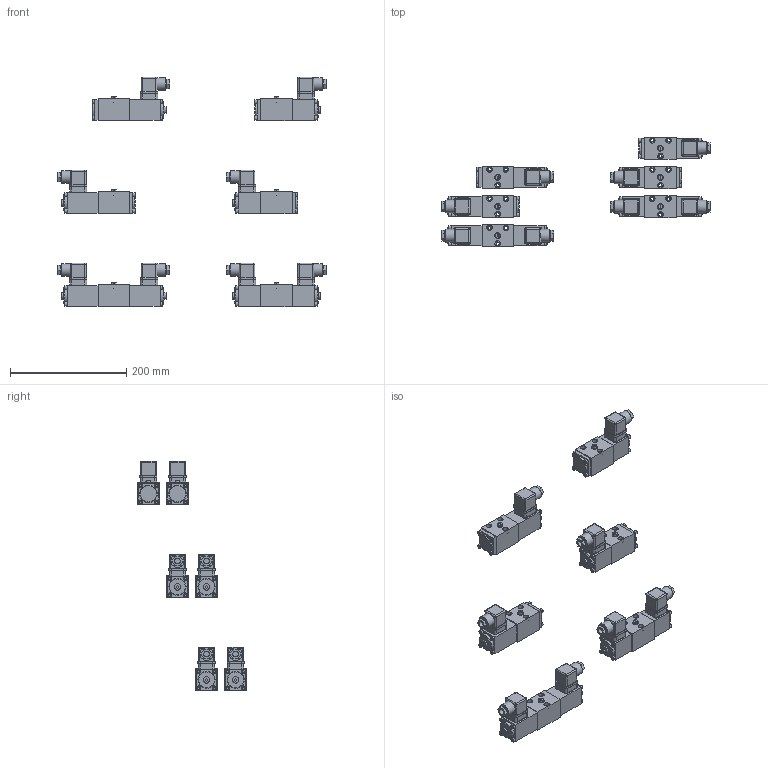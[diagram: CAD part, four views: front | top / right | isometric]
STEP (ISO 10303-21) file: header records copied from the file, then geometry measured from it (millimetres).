
FILE_DESCRIPTION(('Bauteilbeschreibung','HiCAD-Model','HiCAD-STEP-TRANSLATION','Bauteilbeschreibung'),'2;1');
FILE_NAME('K:/STEP_DXF/B_W4_4.STP','2006-07-25T13:23:51+00:00',('Konstrukteur'),('Konstrukteur Firma GmbH'),'HiCAD3 V1210 STEP 1.6.2005','HiCAD3 V1210','confidential');
FILE_SCHEMA(('AUTOMOTIVE_DESIGN { 1 2 10303 214 0 1 1 1 }'));
Products named in the file (151): B_W4_4; BEW4_4; BEW4D4; AFC68840; IN6KTM4; IN6KTM40; IN6KTM41; IN6KTM42; IN6KTM43; D82DEE49; IN6KTM44; IN6KTM45; IN6KTM46; IN6KTM47; IN6KTM48; D82DEE490; A5E16FAE; AF55A0CF; A02D9D95; A836CEE7; F134825D; CA9517B3; CA9517B30; DICHTUNG; A02D9D950; A836CEE70; F134825D0; CA9517B31; CA9517B32; DICHTUNG0; BEW4Z4_A; A70A3D14; IN6KTM49; IN6KTM410; IN6KTM411; IN6KTM412; IN6KTM413; D82DEE491; A5E16FAE0; AF55A0CF0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
Assembly tree (150 placements, depth 7):
  B_W4_4
    BEW4_4
      BEW4D4
        AFC68840
          IN6KTM4
            IN6KTM40
            IN6KTM41
            IN6KTM42
            IN6KTM43
          D82DEE49
          IN6KTM44
            IN6KTM45
            IN6KTM46
            IN6KTM47
            IN6KTM48
          D82DEE490
          A5E16FAE
          AF55A0CF
          A02D9D95
            A836CEE7
            F134825D
            CA9517B3
            CA9517B30
              DICHTUNG
          A02D9D950
            A836CEE70
            F134825D0
            CA9517B31
            CA9517B32
              DICHTUNG0
      BEW4Z4_A
        A70A3D14
          IN6KTM49
            IN6KTM410
            IN6KTM411
            IN6KTM412
            IN6KTM413
          D82DEE491
          A5E16FAE0
          AF55A0CF0
          AA75327F
          AA75327F0
            IN6KTM414
              IN6KTM415
              IN6KTM416
              IN6KTM417
              IN6KTM418
          A02D9D951
            A836CEE71
            F134825D1
            CA9517B33
            CA9517B34
              DICHTUNG1
      BEW4Z4_B
        F77679B9
          IN6KTM419
            IN6KTM420
            IN6KTM421
            IN6KTM422
            IN6KTM423
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Bounding box: 462.5 x 188 x 395.5 mm (x, y, z)
Volume: 1237600.4 mm3; surface area: 311934.6 mm2
Topology: 128 solids, 128 shells, 2022 faces, 4548 edges, 3040 vertices
Faces by surface type: plane 1344, cylinder 604, cone 34, sphere 32, torus 8
Full cylindrical faces by diameter (mm): 1.5 x24, 2.9 x8, 3 x24, 4 x52, 4.5 x52, 5.5 x18, 6.8 x8, 7 x48, 8 x24, 8.5 x30, 9.5 x18, 10 x14, 11 x8, 12 x8, 12.5 x8, 15 x8, 22 x8, 29.5 x8, 30 x4, 32 x8
Entity records: 92706 total; most frequent: CARTESIAN_POINT 9996, DIRECTION 9742, ORIENTED_EDGE 7704, COLOUR_RGB 5978, PRESENTATION_STYLE_ASSIGNMENT 5978, OVER_RIDING_STYLED_ITEM 5874, CURVE_STYLE 3852, DRAUGHTING_PRE_DEFINED_CURVE_FONT 3852
